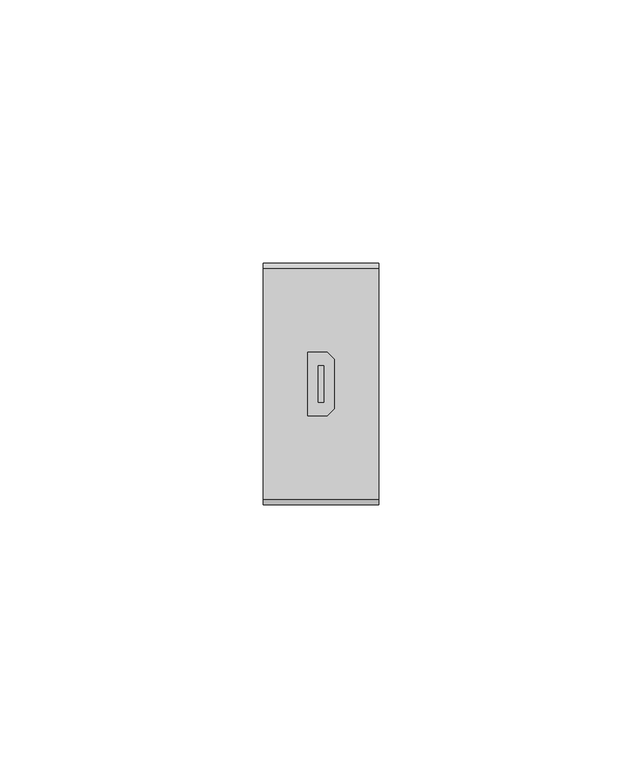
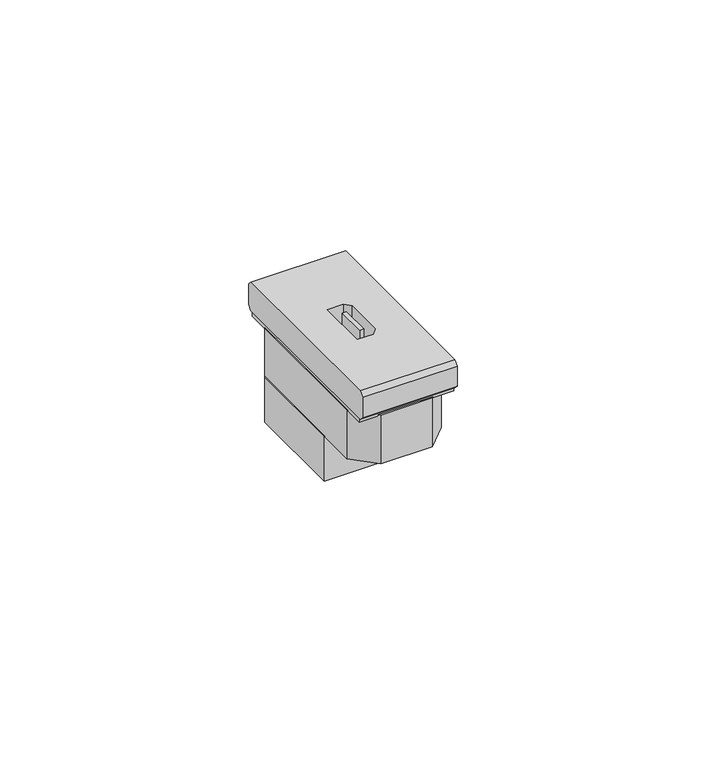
"""IFC4 building model written with IfcOpenShell, lengths in millimetres: proxy geometry, L4284 LI Presa HDMI : L4284 LI Presa HDMI."""

from ifc_helpers import new_model, si_unit, frame, origin, origin_with_axes, place, context, project, spatial, polyline, outline, extrude, faceted_brep, source, transform, mapped, element, save


def electrical_fixtures_719ed66e(model_context):
    return source(origin(), model_context, "Body", "SolidModel", [
        extrude(outline(polyline([(0.5, 3.5), (0.5, -3.5), (-0.5, -3.5), (-0.5, 3.5), (0.5, 3.5)])), frame((0.0, 0.0, 1.0), z_axis=(0.0, 0.0, 1.0), x_axis=(1.0, 0.0, 0.0)), (0.0, 0.0, 1.0), 6.979899),
        faceted_brep([(11.0, -22.0, 1.0), (11.0, 22.0, 1.0), (11.0, 22.9899495, 1.9899495), (11.0, 22.9899495, 6.9899495), (11.0, 22.0, 7.979899), (11.0, -22.0, 7.979899), (11.0, -22.9899495, 6.9899495), (11.0, -22.9899495, 1.9899495), (-11.0, -22.0, 1.0), (-11.0, -22.9899495, 1.9899495), (-11.0, -22.9899495, 6.9899495), (-11.0, -22.0, 7.979899), (-11.0, 22.0, 7.979899), (-11.0, 22.9899495, 6.9899495), (-11.0, 22.9899495, 1.9899495), (-11.0, 22.0, 1.0), (1.2, 6.0, 1.0), (-2.5, 6.0, 1.0), (-2.5, -6.0, 1.0), (1.2, -6.0, 1.0), (2.5, -4.7, 1.0), (2.5, 4.7, 1.0), (-2.5, 6.0, 7.979899), (1.2, 6.0, 7.979899), (2.5, 4.7, 7.979899), (2.5, -4.7, 7.979899), (1.2, -6.0, 7.979899), (-2.5, -6.0, 7.979899)], [[[0, 1, 2, 3, 4, 5, 6, 7]], [[8, 9, 10, 11, 12, 13, 14, 15]], [[1, 0, 8, 15], [16, 17, 18, 19, 20, 21]], [[6, 5, 11, 10]], [[7, 6, 10, 9]], [[0, 7, 9, 8]], [[2, 1, 15, 14]], [[3, 2, 14, 13]], [[4, 3, 13, 12]], [[5, 4, 12, 11], [22, 23, 24, 25, 26, 27]], [[22, 17, 16, 23]], [[17, 22, 27, 18]], [[18, 27, 26, 19]], [[19, 26, 25, 20]], [[20, 25, 24, 21]], [[23, 16, 21, 24]]]),
        extrude(outline(polyline([(-11.0, -7.5), (-11.0, 16.5), (-9.0, 18.5), (9.0, 18.5), (11.0, 16.5), (11.0, -7.5), (-11.0, -7.5)])), frame((0.0, 0.0, -23.0), z_axis=(0.0, 0.0, 1.0), x_axis=(1.0, 0.0, 0.0)), (0.0, 0.0, 1.0), 11.0),
        extrude(outline(polyline([(11.0, -16.5), (6.0, -21.5), (-6.0, -21.5), (-11.0, -16.5), (-11.0, 16.5), (-6.0, 21.5), (6.0, 21.5), (11.0, 16.5), (11.0, -16.5)])), frame((0.0, 0.0, -12.0), z_axis=(0.0, 0.0, 1.0), x_axis=(1.0, 0.0, 0.0)), (0.0, 0.0, 1.0), 12.0),
        extrude(outline(polyline([(11.0, -21.5), (-11.0, -21.5), (-11.0, 21.5), (11.0, 21.5), (11.0, -21.5)])), origin_with_axes(), (0.0, 0.0, 1.0), 1.0),
    ])


if __name__ == "__main__":
    model = new_model("IFC4")
    model_context = context("Model", 3, world=origin())
    ifc_project = project(units=[si_unit("LENGTHUNIT", "METRE", prefix="MILLI")], contexts=[model_context])
    site = spatial("IfcSite", under=ifc_project)
    building = spatial("IfcBuilding", under=site)
    placement = place(None, origin())
    electrical_fixtures_shape = electrical_fixtures_719ed66e(model_context)
    element("IfcBuildingElementProxy", 1, Name="L4284 LI Presa HDMI : L4284 LI Presa HDMI", ObjectType="L4284 LI Presa HDMI : L4284 LI Presa HDMI", at=placement, inside=building, context=model_context, shape_type="MappedRepresentation", body=[
        mapped(electrical_fixtures_shape, transform((0.0, 0.0, 0.0), x_axis=(1.0, 0.0, 0.0), y_axis=(0.0, 1.0, 0.0), z_axis=(0.0, 0.0, 1.0))),
    ])
    save(model, "model.ifc")
